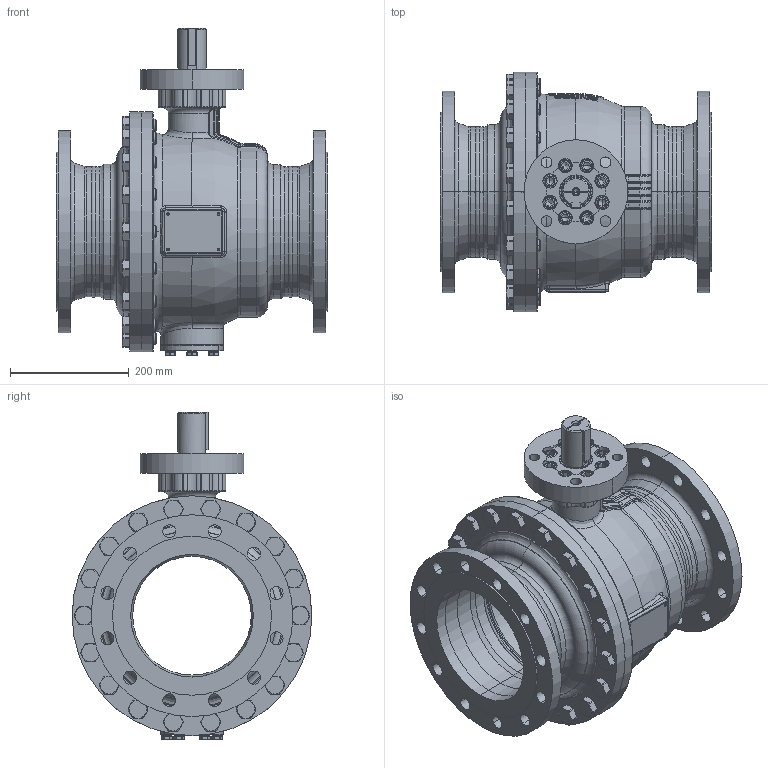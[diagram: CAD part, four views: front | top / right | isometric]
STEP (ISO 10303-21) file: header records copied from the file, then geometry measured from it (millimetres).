
FILE_DESCRIPTION((''),'2;1');
FILE_NAME('KHI-F_200_PN016-F14-P_SW0001','2026-02-05T12:45:56',('fischerkl'),('KLINGER'),'CREO PARAMETRIC BY PTC INC, 2023014','CREO PARAMETRIC BY PTC INC, 2023014','');
FILE_SCHEMA(('CONFIG_CONTROL_DESIGN'));
Products named in the file (1): KHI-F_200_PN016-F14-P_SW0001
Bounding box: 457 x 404 x 552.2 mm (x, y, z)
Volume: 12648223.2 mm3; surface area: 2255538.7 mm2
Topology: 1 solids, 4 shells, 2938 faces, 7364 edges, 4566 vertices
Faces by surface type: plane 1413, cylinder 724, cone 360, torus 303, bspline 108, sphere 30
Entity records: 121123 total; most frequent: CARTESIAN_POINT 51639, ORIENTED_EDGE 14676, DIRECTION 14416, EDGE_CURVE 7338, AXIS2_PLACEMENT_3D 5562, VERTEX_POINT 4566, VECTOR 3292, LINE 3292
